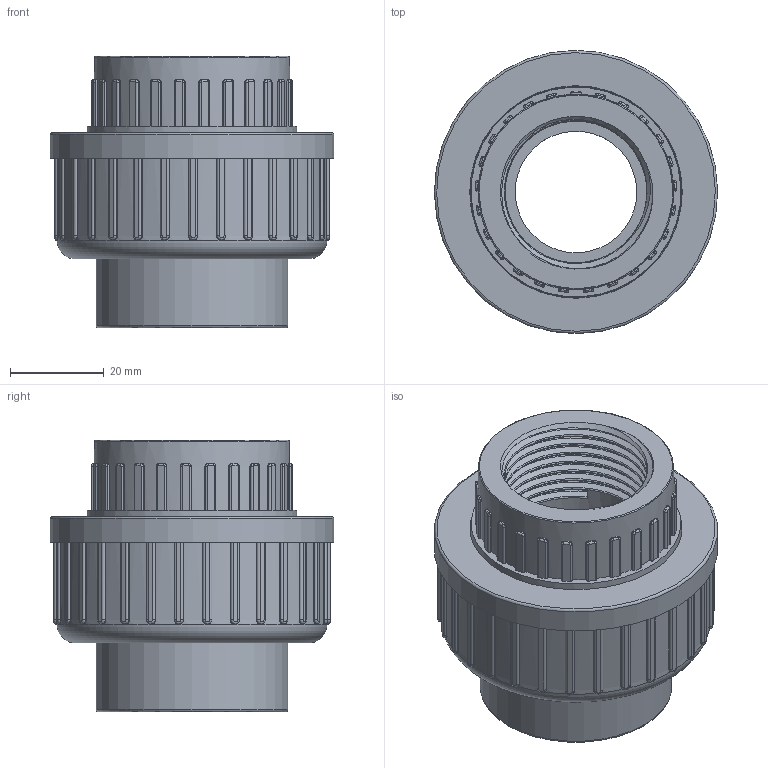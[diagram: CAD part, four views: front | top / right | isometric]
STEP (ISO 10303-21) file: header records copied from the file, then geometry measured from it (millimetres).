
FILE_DESCRIPTION(/* description */ (''),/* implementation_level */ '2;1');
FILE_NAME(/* name */ 'C:\Users\POLYPIPE\Desktop\DATASET INVENTOR\LIBRERIA EFFAST\3D_RACCORDI\RGR\3D_RGRBOG\3D_RGRBOG032D.stp',/* time_stamp */ '2018-01-22T14:32:39+01:00',/* author */ ('POLYPIPE'),/* organization */ (''),/* preprocessor_version */ 'ST-DEVELOPER v16.1',/* originating_system */ 'Autodesk Inventor 2016',/* authorisation */ '');
FILE_SCHEMA (('CONFIG_CONTROL_DESIGN'));
Length unit declared in the file: centimetre
Products named in the file (1): 3D_RGRBOG
Bounding box: 60.5 x 60.5 x 58 mm (x, y, z)
Volume: 70395.6 mm3; surface area: 26042.4 mm2
Topology: 1 solids, 1 shells, 561 faces, 1454 edges, 903 vertices
Faces by surface type: cylinder 262, plane 205, bspline 89, torus 4, cone 1
Full cylindrical faces by diameter (mm): 26 x1, 28 x1, 30.291 x1, 32 x1, 41 x1, 41.7 x1, 42 x1, 44.5 x1, 44.845 x2, 45.4 x6, 60.5 x1
Entity records: 23354 total; most frequent: CARTESIAN_POINT 9451, ORIENTED_EDGE 2836, DIRECTION 2796, EDGE_CURVE 1418, AXIS2_PLACEMENT_3D 1040, VERTEX_POINT 888, LINE 716, VECTOR 716
